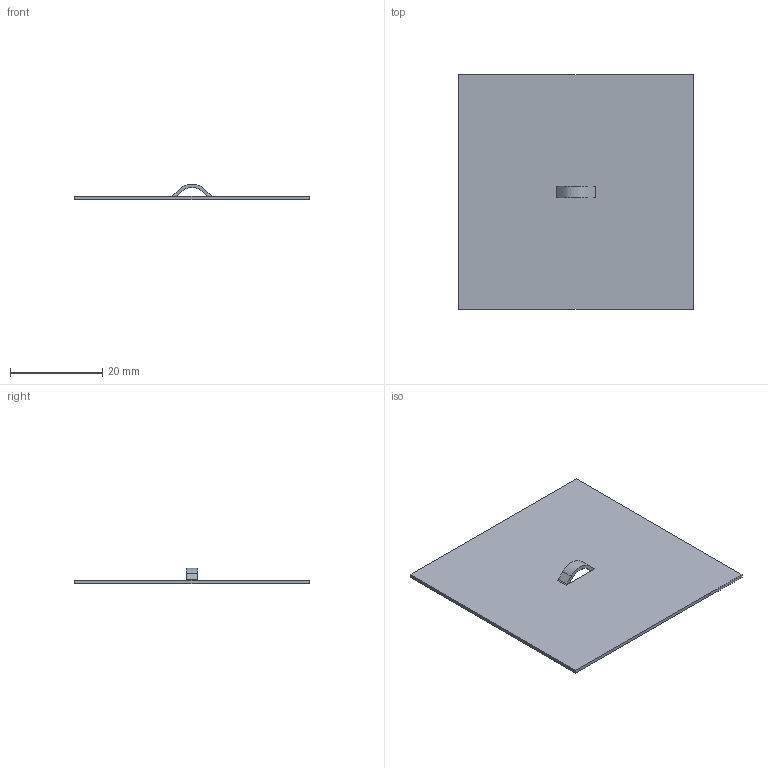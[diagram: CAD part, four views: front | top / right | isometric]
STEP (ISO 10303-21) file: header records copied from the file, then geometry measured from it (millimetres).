
FILE_DESCRIPTION((''),'1');
FILE_NAME('C:/Users/robertnolte/Desktop/WT#754811-20.stp','2012-03-27T22:15:50',(''),(''),'Spatial Interop R21 SP3','Kubotek KeyCreator 2011 V10.5.0 (24766)',' ');
FILE_SCHEMA(('CONFIG_CONTROL_DESIGN'));
Length unit declared in the file: inch
Products named in the file (1): 1
Bounding box: 50.8 x 50.8 x 3.41 mm (x, y, z)
Volume: 1904.5 mm3; surface area: 5348.2 mm2
Topology: 1 solids, 1 shells, 20 faces, 52 edges, 32 vertices
Faces by surface type: plane 14, cylinder 6
Entity records: 656 total; most frequent: DIRECTION 106, CARTESIAN_POINT 105, ORIENTED_EDGE 104, EDGE_CURVE 52, LINE 40, VECTOR 40, AXIS2_PLACEMENT_3D 33, VERTEX_POINT 32
